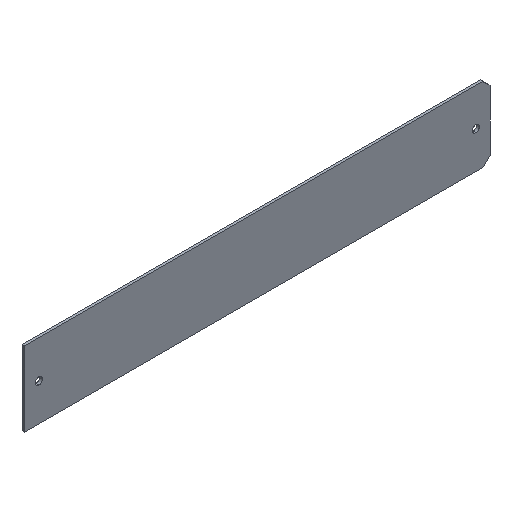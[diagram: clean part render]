
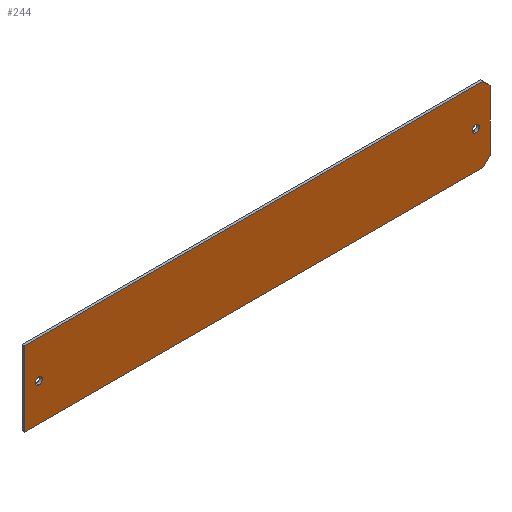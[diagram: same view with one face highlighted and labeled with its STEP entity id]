
A CAD part, isometric view. The second image highlights one B-rep face of the part: STEP entity #244.
In plain terms, the highlighted planar face has unit normal (0, -1, 0).
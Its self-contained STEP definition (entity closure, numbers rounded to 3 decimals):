
#10 = DIRECTION ( 'NONE',  ( 0., 0., 1. ) ) ;
#15 = CARTESIAN_POINT ( 'NONE',  ( 62., 0., 0. ) ) ;
#22 = CARTESIAN_POINT ( 'NONE',  ( -62., 0., -1. ) ) ;
#23 = VERTEX_POINT ( 'NONE', #22 ) ;
#25 = ORIENTED_EDGE ( 'NONE', *, *, #170, .T. ) ;
#26 = DIRECTION ( 'NONE',  ( 0., 0., 1. ) ) ;
#33 = EDGE_CURVE ( 'NONE', #211, #23, #39, .T. ) ;
#39 = CIRCLE ( 'NONE', #204, 1. ) ;
#45 = CARTESIAN_POINT ( 'NONE',  ( 66., 0., -10.6 ) ) ;
#50 = VERTEX_POINT ( 'NONE', #281 ) ;
#60 = LINE ( 'NONE', #416, #195 ) ;
#65 = CARTESIAN_POINT ( 'NONE',  ( -62., 0., 0. ) ) ;
#66 = LINE ( 'NONE', #259, #232 ) ;
#82 = AXIS2_PLACEMENT_3D ( 'NONE', #15, #324, #10 ) ;
#88 = CARTESIAN_POINT ( 'NONE',  ( -66., 0., -10.6 ) ) ;
#89 = VECTOR ( 'NONE', #340, 1000. ) ;
#92 = EDGE_CURVE ( 'NONE', #23, #211, #138, .T. ) ;
#100 = ORIENTED_EDGE ( 'NONE', *, *, #371, .T. ) ;
#107 = ORIENTED_EDGE ( 'NONE', *, *, #322, .F. ) ;
#109 = VERTEX_POINT ( 'NONE', #321 ) ;
#119 = AXIS2_PLACEMENT_3D ( 'NONE', #347, #154, #353 ) ;
#129 = CIRCLE ( 'NONE', #173, 1. ) ;
#137 = DIRECTION ( 'NONE',  ( 0., 0., -1. ) ) ;
#138 = CIRCLE ( 'NONE', #210, 1. ) ;
#139 = ORIENTED_EDGE ( 'NONE', *, *, #197, .F. ) ;
#144 = VECTOR ( 'NONE', #377, 1000. ) ;
#145 = VERTEX_POINT ( 'NONE', #163 ) ;
#150 = CARTESIAN_POINT ( 'NONE',  ( -66., 0., -10.6 ) ) ;
#154 = DIRECTION ( 'NONE',  ( 0., 1., 0. ) ) ;
#163 = CARTESIAN_POINT ( 'NONE',  ( 66., 0., -8.6 ) ) ;
#170 = EDGE_CURVE ( 'NONE', #361, #411, #189, .T. ) ;
#173 = AXIS2_PLACEMENT_3D ( 'NONE', #375, #282, #26 ) ;
#179 = EDGE_LOOP ( 'NONE', ( #395, #201 ) ) ;
#189 = CIRCLE ( 'NONE', #82, 1. ) ;
#195 = VECTOR ( 'NONE', #246, 1000. ) ;
#197 = EDGE_CURVE ( 'NONE', #280, #145, #295, .T. ) ;
#199 = ORIENTED_EDGE ( 'NONE', *, *, #337, .T. ) ;
#201 = ORIENTED_EDGE ( 'NONE', *, *, #92, .T. ) ;
#204 = AXIS2_PLACEMENT_3D ( 'NONE', #245, #275, #307 ) ;
#205 = VERTEX_POINT ( 'NONE', #365 ) ;
#210 = AXIS2_PLACEMENT_3D ( 'NONE', #65, #352, #349 ) ;
#211 = VERTEX_POINT ( 'NONE', #330 ) ;
#214 = CARTESIAN_POINT ( 'NONE',  ( 62., 0., -1. ) ) ;
#216 = FACE_OUTER_BOUND ( 'NONE', #343, .T. ) ;
#219 = LINE ( 'NONE', #350, #89 ) ;
#223 = FACE_BOUND ( 'NONE', #331, .T. ) ;
#232 = VECTOR ( 'NONE', #389, 1000. ) ;
#235 = PLANE ( 'NONE',  #119 ) ;
#239 = VERTEX_POINT ( 'NONE', #253 ) ;
#243 = DIRECTION ( 'NONE',  ( -1., 0., 0. ) ) ;
#244 = ADVANCED_FACE ( 'NONE', ( #285, #223, #216 ), #235, .F. ) ;
#245 = CARTESIAN_POINT ( 'NONE',  ( -62., 0., 0. ) ) ;
#246 = DIRECTION ( 'NONE',  ( 1., 0., 0. ) ) ;
#252 = LINE ( 'NONE', #88, #256 ) ;
#253 = CARTESIAN_POINT ( 'NONE',  ( -66., 0., 10.6 ) ) ;
#256 = VECTOR ( 'NONE', #243, 1000. ) ;
#257 = CARTESIAN_POINT ( 'NONE',  ( 66., 0., 8.6 ) ) ;
#259 = CARTESIAN_POINT ( 'NONE',  ( 66., 0., 8.6 ) ) ;
#275 = DIRECTION ( 'NONE',  ( 0., 1., 0. ) ) ;
#276 = CARTESIAN_POINT ( 'NONE',  ( 62., 0., 1. ) ) ;
#280 = VERTEX_POINT ( 'NONE', #257 ) ;
#281 = CARTESIAN_POINT ( 'NONE',  ( 64., 0., -10.6 ) ) ;
#282 = DIRECTION ( 'NONE',  ( 0., 1., 0. ) ) ;
#285 = FACE_BOUND ( 'NONE', #179, .T. ) ;
#295 = LINE ( 'NONE', #45, #326 ) ;
#302 = EDGE_CURVE ( 'NONE', #280, #205, #66, .T. ) ;
#307 = DIRECTION ( 'NONE',  ( 0., 0., 1. ) ) ;
#321 = CARTESIAN_POINT ( 'NONE',  ( -66., 0., -10.6 ) ) ;
#322 = EDGE_CURVE ( 'NONE', #50, #109, #252, .T. ) ;
#324 = DIRECTION ( 'NONE',  ( 0., 1., 0. ) ) ;
#326 = VECTOR ( 'NONE', #137, 1000. ) ;
#330 = CARTESIAN_POINT ( 'NONE',  ( -62., 0., 1. ) ) ;
#331 = EDGE_LOOP ( 'NONE', ( #25, #199 ) ) ;
#337 = EDGE_CURVE ( 'NONE', #411, #361, #129, .T. ) ;
#339 = ORIENTED_EDGE ( 'NONE', *, *, #383, .F. ) ;
#340 = DIRECTION ( 'NONE',  ( 0.707, 0., 0.707 ) ) ;
#343 = EDGE_LOOP ( 'NONE', ( #139, #373, #374, #339, #107, #100 ) ) ;
#347 = CARTESIAN_POINT ( 'NONE',  ( 0., 0., 0. ) ) ;
#349 = DIRECTION ( 'NONE',  ( 0., 0., 1. ) ) ;
#350 = CARTESIAN_POINT ( 'NONE',  ( 64., 0., -10.6 ) ) ;
#352 = DIRECTION ( 'NONE',  ( 0., 1., 0. ) ) ;
#353 = DIRECTION ( 'NONE',  ( 0., 0., 1. ) ) ;
#361 = VERTEX_POINT ( 'NONE', #276 ) ;
#365 = CARTESIAN_POINT ( 'NONE',  ( 64., 0., 10.6 ) ) ;
#371 = EDGE_CURVE ( 'NONE', #50, #145, #219, .T. ) ;
#373 = ORIENTED_EDGE ( 'NONE', *, *, #302, .T. ) ;
#374 = ORIENTED_EDGE ( 'NONE', *, *, #402, .F. ) ;
#375 = CARTESIAN_POINT ( 'NONE',  ( 62., 0., 0. ) ) ;
#377 = DIRECTION ( 'NONE',  ( 0., 0., 1. ) ) ;
#383 = EDGE_CURVE ( 'NONE', #109, #239, #407, .T. ) ;
#389 = DIRECTION ( 'NONE',  ( -0.707, 0., 0.707 ) ) ;
#395 = ORIENTED_EDGE ( 'NONE', *, *, #33, .T. ) ;
#402 = EDGE_CURVE ( 'NONE', #239, #205, #60, .T. ) ;
#407 = LINE ( 'NONE', #150, #144 ) ;
#411 = VERTEX_POINT ( 'NONE', #214 ) ;
#416 = CARTESIAN_POINT ( 'NONE',  ( -66., 0., 10.6 ) ) ;
